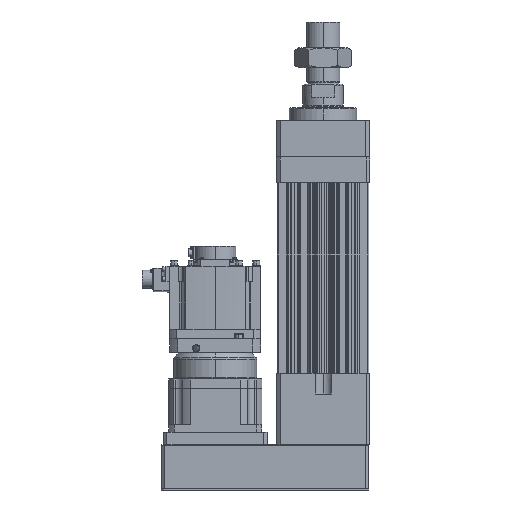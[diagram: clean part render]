
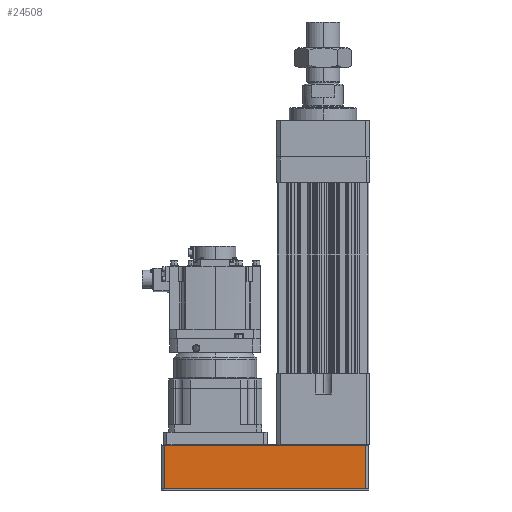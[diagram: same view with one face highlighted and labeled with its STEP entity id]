
A CAD part, left-side view. The second image highlights one B-rep face of the part: STEP entity #24508.
In plain terms, the highlighted planar face has unit normal (-1, 0, 0).
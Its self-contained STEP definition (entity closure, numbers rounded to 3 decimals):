
#1302 = DIRECTION ( 'NONE',  ( 0., 1., 0. ) ) ;
#2608 = LINE ( 'NONE', #42742, #34351 ) ;
#5989 = ORIENTED_EDGE ( 'NONE', *, *, #34132, .F. ) ;
#6077 = EDGE_CURVE ( 'NONE', #33856, #29772, #2608, .T. ) ;
#6564 = VECTOR ( 'NONE', #11793, 1000. ) ;
#11446 = LINE ( 'NONE', #39095, #29949 ) ;
#11793 = DIRECTION ( 'NONE',  ( 0., 0., 1. ) ) ;
#14309 = EDGE_CURVE ( 'NONE', #33498, #33856, #51105, .T. ) ;
#15026 = CARTESIAN_POINT ( 'NONE',  ( -88., 306., -138.5 ) ) ;
#16393 = ORIENTED_EDGE ( 'NONE', *, *, #45530, .T. ) ;
#17696 = VECTOR ( 'NONE', #38038, 1000. ) ;
#17929 = DIRECTION ( 'NONE',  ( 0., 0., -1. ) ) ;
#19475 = ORIENTED_EDGE ( 'NONE', *, *, #6077, .T. ) ;
#21692 = VERTEX_POINT ( 'NONE', #34008 ) ;
#22703 = ORIENTED_EDGE ( 'NONE', *, *, #14309, .T. ) ;
#24508 = ADVANCED_FACE ( 'NONE', ( #38450 ), #50117, .F. ) ;
#25262 = CARTESIAN_POINT ( 'NONE',  ( -88., -82., -138.5 ) ) ;
#29772 = VERTEX_POINT ( 'NONE', #15026 ) ;
#29949 = VECTOR ( 'NONE', #43584, 1000. ) ;
#33361 = CARTESIAN_POINT ( 'NONE',  ( -88., -82., -221.5 ) ) ;
#33498 = VERTEX_POINT ( 'NONE', #33361 ) ;
#33856 = VERTEX_POINT ( 'NONE', #25262 ) ;
#34008 = CARTESIAN_POINT ( 'NONE',  ( -88., 306., -221.5 ) ) ;
#34132 = EDGE_CURVE ( 'NONE', #21692, #29772, #11446, .T. ) ;
#34351 = VECTOR ( 'NONE', #1302, 1000. ) ;
#37692 = CARTESIAN_POINT ( 'NONE',  ( -88., -82., -221.5 ) ) ;
#38038 = DIRECTION ( 'NONE',  ( 0., -1., 0. ) ) ;
#38388 = CARTESIAN_POINT ( 'NONE',  ( -88., -82., -222. ) ) ;
#38450 = FACE_OUTER_BOUND ( 'NONE', #47720, .T. ) ;
#39095 = CARTESIAN_POINT ( 'NONE',  ( -88., 306., -222. ) ) ;
#40645 = LINE ( 'NONE', #37692, #17696 ) ;
#42742 = CARTESIAN_POINT ( 'NONE',  ( -88., -82., -138.5 ) ) ;
#43584 = DIRECTION ( 'NONE',  ( 0., 0., 1. ) ) ;
#45530 = EDGE_CURVE ( 'NONE', #21692, #33498, #40645, .T. ) ;
#47720 = EDGE_LOOP ( 'NONE', ( #5989, #16393, #22703, #19475 ) ) ;
#50117 = PLANE ( 'NONE',  #51594 ) ;
#50462 = DIRECTION ( 'NONE',  ( 1., 0., 0. ) ) ;
#51105 = LINE ( 'NONE', #52153, #6564 ) ;
#51594 = AXIS2_PLACEMENT_3D ( 'NONE', #38388, #50462, #17929 ) ;
#52153 = CARTESIAN_POINT ( 'NONE',  ( -88., -82., -222. ) ) ;
